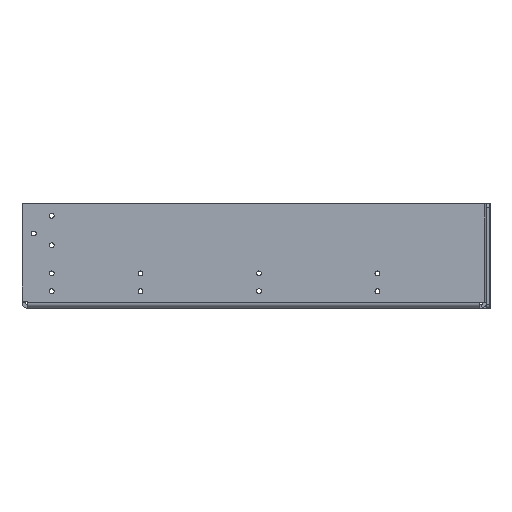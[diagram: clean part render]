
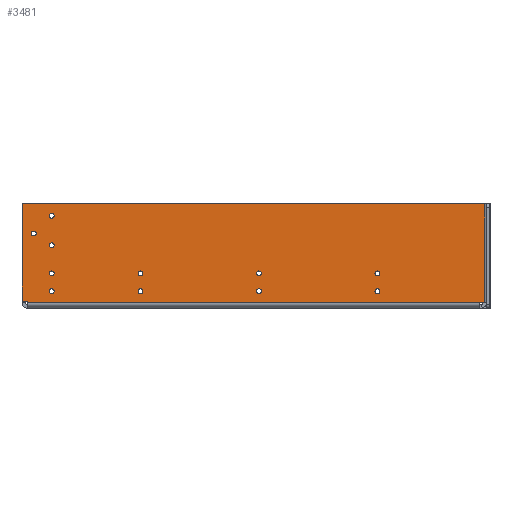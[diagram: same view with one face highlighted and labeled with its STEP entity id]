
A CAD part, left-side view. The second image highlights one B-rep face of the part: STEP entity #3481.
In plain terms, the highlighted planar face has unit normal (-1, 0, 0).
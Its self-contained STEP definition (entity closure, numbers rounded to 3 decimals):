
#172=FACE_BOUND('',#603,.T.);
#173=FACE_BOUND('',#604,.T.);
#174=FACE_BOUND('',#605,.T.);
#175=FACE_BOUND('',#606,.T.);
#176=FACE_BOUND('',#607,.T.);
#177=FACE_BOUND('',#608,.T.);
#178=FACE_BOUND('',#609,.T.);
#179=FACE_BOUND('',#610,.T.);
#180=FACE_BOUND('',#611,.T.);
#181=FACE_BOUND('',#612,.T.);
#182=FACE_BOUND('',#613,.T.);
#276=PLANE('',#3727);
#402=FACE_OUTER_BOUND('',#602,.T.);
#602=EDGE_LOOP('',(#2593,#2594,#2595,#2596,#2597,#2598,#2599));
#603=EDGE_LOOP('',(#2600));
#604=EDGE_LOOP('',(#2601));
#605=EDGE_LOOP('',(#2602));
#606=EDGE_LOOP('',(#2603));
#607=EDGE_LOOP('',(#2604));
#608=EDGE_LOOP('',(#2605));
#609=EDGE_LOOP('',(#2606));
#610=EDGE_LOOP('',(#2607));
#611=EDGE_LOOP('',(#2608));
#612=EDGE_LOOP('',(#2609));
#613=EDGE_LOOP('',(#2610));
#884=LINE('',#5186,#1202);
#886=LINE('',#5191,#1204);
#889=LINE('',#5198,#1207);
#892=LINE('',#5203,#1210);
#900=LINE('',#5223,#1218);
#901=LINE('',#5226,#1219);
#902=LINE('',#5227,#1220);
#1202=VECTOR('',#4184,10.);
#1204=VECTOR('',#4188,10.);
#1207=VECTOR('',#4193,10.);
#1210=VECTOR('',#4198,10.);
#1218=VECTOR('',#4218,10.);
#1219=VECTOR('',#4221,10.);
#1220=VECTOR('',#4222,10.);
#1474=CIRCLE('',#3651,2.067);
#1476=CIRCLE('',#3654,2.067);
#1478=CIRCLE('',#3657,2.067);
#1480=CIRCLE('',#3660,2.067);
#1482=CIRCLE('',#3663,2.067);
#1484=CIRCLE('',#3666,2.067);
#1486=CIRCLE('',#3669,2.067);
#1488=CIRCLE('',#3672,2.067);
#1490=CIRCLE('',#3675,2.067);
#1492=CIRCLE('',#3678,2.067);
#1494=CIRCLE('',#3681,2.067);
#1637=VERTEX_POINT('',#5017);
#1639=VERTEX_POINT('',#5023);
#1641=VERTEX_POINT('',#5029);
#1643=VERTEX_POINT('',#5035);
#1645=VERTEX_POINT('',#5041);
#1647=VERTEX_POINT('',#5047);
#1649=VERTEX_POINT('',#5053);
#1651=VERTEX_POINT('',#5059);
#1653=VERTEX_POINT('',#5065);
#1655=VERTEX_POINT('',#5071);
#1657=VERTEX_POINT('',#5077);
#1690=VERTEX_POINT('',#5175);
#1691=VERTEX_POINT('',#5179);
#1693=VERTEX_POINT('',#5190);
#1694=VERTEX_POINT('',#5194);
#1696=VERTEX_POINT('',#5197);
#1703=VERTEX_POINT('',#5221);
#1704=VERTEX_POINT('',#5225);
#1933=EDGE_CURVE('',#1637,#1637,#1474,.T.);
#1936=EDGE_CURVE('',#1639,#1639,#1476,.T.);
#1939=EDGE_CURVE('',#1641,#1641,#1478,.T.);
#1942=EDGE_CURVE('',#1643,#1643,#1480,.T.);
#1945=EDGE_CURVE('',#1645,#1645,#1482,.T.);
#1948=EDGE_CURVE('',#1647,#1647,#1484,.T.);
#1951=EDGE_CURVE('',#1649,#1649,#1486,.T.);
#1954=EDGE_CURVE('',#1651,#1651,#1488,.T.);
#1957=EDGE_CURVE('',#1653,#1653,#1490,.T.);
#1960=EDGE_CURVE('',#1655,#1655,#1492,.T.);
#1963=EDGE_CURVE('',#1657,#1657,#1494,.T.);
#2016=EDGE_CURVE('',#1690,#1691,#884,.T.);
#2018=EDGE_CURVE('',#1693,#1691,#886,.T.);
#2021=EDGE_CURVE('',#1696,#1694,#889,.T.);
#2024=EDGE_CURVE('',#1693,#1694,#892,.T.);
#2035=EDGE_CURVE('',#1696,#1703,#900,.T.);
#2036=EDGE_CURVE('',#1690,#1704,#901,.T.);
#2037=EDGE_CURVE('',#1704,#1703,#902,.T.);
#2593=ORIENTED_EDGE('',*,*,#2024,.F.);
#2594=ORIENTED_EDGE('',*,*,#2018,.T.);
#2595=ORIENTED_EDGE('',*,*,#2016,.F.);
#2596=ORIENTED_EDGE('',*,*,#2036,.T.);
#2597=ORIENTED_EDGE('',*,*,#2037,.T.);
#2598=ORIENTED_EDGE('',*,*,#2035,.F.);
#2599=ORIENTED_EDGE('',*,*,#2021,.T.);
#2600=ORIENTED_EDGE('',*,*,#1933,.T.);
#2601=ORIENTED_EDGE('',*,*,#1936,.T.);
#2602=ORIENTED_EDGE('',*,*,#1939,.T.);
#2603=ORIENTED_EDGE('',*,*,#1942,.T.);
#2604=ORIENTED_EDGE('',*,*,#1945,.T.);
#2605=ORIENTED_EDGE('',*,*,#1948,.T.);
#2606=ORIENTED_EDGE('',*,*,#1951,.T.);
#2607=ORIENTED_EDGE('',*,*,#1954,.T.);
#2608=ORIENTED_EDGE('',*,*,#1957,.T.);
#2609=ORIENTED_EDGE('',*,*,#1960,.T.);
#2610=ORIENTED_EDGE('',*,*,#1963,.T.);
#3481=ADVANCED_FACE('',(#402,#172,#173,#174,#175,#176,#177,#178,#179,#180,
#181,#182),#276,.T.);
#3651=AXIS2_PLACEMENT_3D('',#5019,#4004,#4005);
#3654=AXIS2_PLACEMENT_3D('',#5025,#4011,#4012);
#3657=AXIS2_PLACEMENT_3D('',#5031,#4018,#4019);
#3660=AXIS2_PLACEMENT_3D('',#5037,#4025,#4026);
#3663=AXIS2_PLACEMENT_3D('',#5043,#4032,#4033);
#3666=AXIS2_PLACEMENT_3D('',#5049,#4039,#4040);
#3669=AXIS2_PLACEMENT_3D('',#5055,#4046,#4047);
#3672=AXIS2_PLACEMENT_3D('',#5061,#4053,#4054);
#3675=AXIS2_PLACEMENT_3D('',#5067,#4060,#4061);
#3678=AXIS2_PLACEMENT_3D('',#5073,#4067,#4068);
#3681=AXIS2_PLACEMENT_3D('',#5079,#4074,#4075);
#3727=AXIS2_PLACEMENT_3D('',#5224,#4219,#4220);
#4004=DIRECTION('center_axis',(1.,0.,0.));
#4005=DIRECTION('ref_axis',(0.,0.,
1.));
#4011=DIRECTION('center_axis',(1.,0.,0.));
#4012=DIRECTION('ref_axis',(0.,0.,
1.));
#4018=DIRECTION('center_axis',(1.,0.,0.));
#4019=DIRECTION('ref_axis',(0.,0.,
1.));
#4025=DIRECTION('center_axis',(1.,0.,0.));
#4026=DIRECTION('ref_axis',(0.,0.,
1.));
#4032=DIRECTION('center_axis',(1.,0.,0.));
#4033=DIRECTION('ref_axis',(0.,0.,
1.));
#4039=DIRECTION('center_axis',(1.,0.,0.));
#4040=DIRECTION('ref_axis',(0.,0.,
1.));
#4046=DIRECTION('center_axis',(1.,0.,0.));
#4047=DIRECTION('ref_axis',(0.,0.,
1.));
#4053=DIRECTION('center_axis',(1.,0.,0.));
#4054=DIRECTION('ref_axis',(0.,0.,
1.));
#4060=DIRECTION('center_axis',(1.,0.,0.));
#4061=DIRECTION('ref_axis',(0.,0.,
1.));
#4067=DIRECTION('center_axis',(1.,0.,0.));
#4068=DIRECTION('ref_axis',(0.,0.,
1.));
#4074=DIRECTION('center_axis',(1.,0.,0.));
#4075=DIRECTION('ref_axis',(0.,0.,
1.));
#4184=DIRECTION('',(0.,0.,-1.));
#4188=DIRECTION('',(0.,-1.,0.));
#4193=DIRECTION('',(0.,0.,-1.));
#4198=DIRECTION('',(0.,1.,0.));
#4218=DIRECTION('',(0.,1.,0.));
#4219=DIRECTION('center_axis',(-1.,0.,0.));
#4220=DIRECTION('ref_axis',(0.,0.,1.));
#4221=DIRECTION('',(0.,1.,0.));
#4222=DIRECTION('',(0.,0.,-1.));
#5017=CARTESIAN_POINT('',(-223.,-104.,9.233));
#5019=CARTESIAN_POINT('Origin',(-223.,-104.,11.3));
#5023=CARTESIAN_POINT('',(-223.,-4.,9.233));
#5025=CARTESIAN_POINT('Origin',(-223.,-4.,11.3));
#5029=CARTESIAN_POINT('',(-223.,96.,9.233));
#5031=CARTESIAN_POINT('Origin',(-223.,96.,11.3));
#5035=CARTESIAN_POINT('',(-223.,171.,9.233));
#5037=CARTESIAN_POINT('Origin',(-223.,171.,11.3));
#5041=CARTESIAN_POINT('',(-223.,171.,47.933));
#5043=CARTESIAN_POINT('Origin',(-223.,171.,50.));
#5047=CARTESIAN_POINT('',(-223.,171.,72.933));
#5049=CARTESIAN_POINT('Origin',(-223.,171.,75.));
#5053=CARTESIAN_POINT('',(-223.,171.,24.233));
#5055=CARTESIAN_POINT('Origin',(-223.,171.,26.3));
#5059=CARTESIAN_POINT('',(-223.,96.,24.233));
#5061=CARTESIAN_POINT('Origin',(-223.,96.,26.3));
#5065=CARTESIAN_POINT('',(-223.,-4.,24.233));
#5067=CARTESIAN_POINT('Origin',(-223.,-4.,26.3));
#5071=CARTESIAN_POINT('',(-223.,-104.,24.233));
#5073=CARTESIAN_POINT('Origin',(-223.,-104.,26.3));
#5077=CARTESIAN_POINT('',(-223.,186.,57.933));
#5079=CARTESIAN_POINT('Origin',(-223.,186.,60.));
#5175=CARTESIAN_POINT('',(-223.,-194.5,85.));
#5179=CARTESIAN_POINT('',(-223.,-194.5,1.5));
#5186=CARTESIAN_POINT('',(-223.,-194.5,85.));
#5190=CARTESIAN_POINT('',(-223.,-190.,1.5));
#5191=CARTESIAN_POINT('',(-223.,-190.,1.5));
#5194=CARTESIAN_POINT('',(-223.,191.5,1.5));
#5197=CARTESIAN_POINT('',(-223.,191.5,3.));
#5198=CARTESIAN_POINT('',(-223.,191.5,-2.93));
#5203=CARTESIAN_POINT('',(-223.,1.489,1.5));
#5221=CARTESIAN_POINT('',(-223.,196.,3.));
#5223=CARTESIAN_POINT('',(-223.,97.239,3.));
#5224=CARTESIAN_POINT('Origin',(-223.,2.979,41.056));
#5225=CARTESIAN_POINT('',(-223.,196.,85.));
#5226=CARTESIAN_POINT('',(-223.,-190.,85.));
#5227=CARTESIAN_POINT('',(-223.,196.,1.5));
